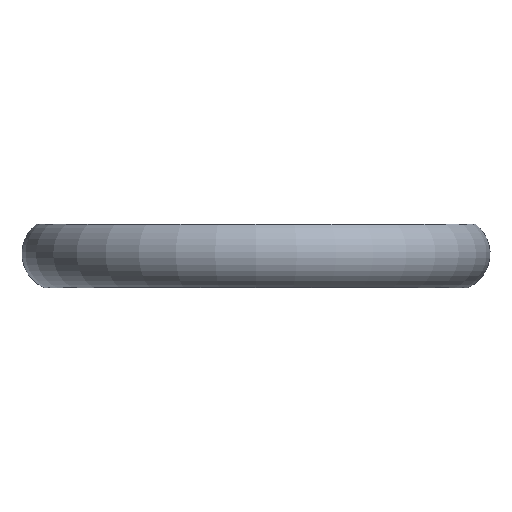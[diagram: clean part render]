
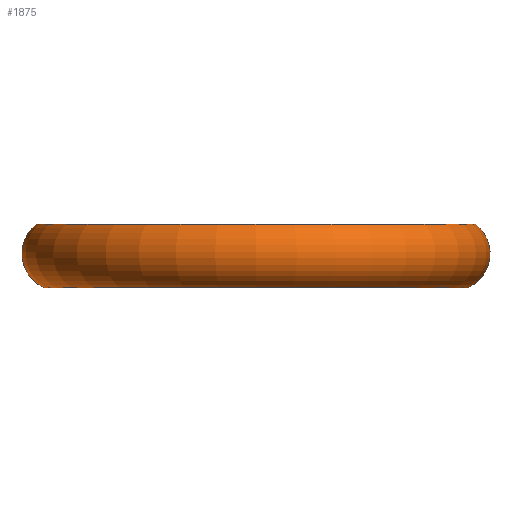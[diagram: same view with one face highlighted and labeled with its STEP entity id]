
A CAD part, front view. The second image highlights one B-rep face of the part: STEP entity #1875.
In plain terms, the highlighted toroidal (fillet/blend) face has major radius 21.547 mm and minor radius 4.072 mm.
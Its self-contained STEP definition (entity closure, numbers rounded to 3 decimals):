
#16=TOROIDAL_SURFACE('',#2013,21.547,4.072);
#40=CIRCLE('',#2011,24.);
#41=CIRCLE('',#2012,24.);
#42=CIRCLE('',#2014,23.133);
#43=CIRCLE('',#2015,23.133);
#44=CIRCLE('',#2016,4.072);
#226=FACE_OUTER_BOUND('',#367,.T.);
#367=EDGE_LOOP('',(#1631,#1632,#1633,#1634,#1635,#1636));
#938=VERTEX_POINT('',#3194);
#939=VERTEX_POINT('',#3195);
#940=VERTEX_POINT('',#3199);
#941=VERTEX_POINT('',#3200);
#1177=EDGE_CURVE('',#938,#939,#40,.T.);
#1178=EDGE_CURVE('',#939,#938,#41,.T.);
#1179=EDGE_CURVE('',#940,#941,#42,.T.);
#1180=EDGE_CURVE('',#941,#940,#43,.T.);
#1181=EDGE_CURVE('',#941,#939,#44,.T.);
#1631=ORIENTED_EDGE('',*,*,#1179,.F.);
#1632=ORIENTED_EDGE('',*,*,#1180,.F.);
#1633=ORIENTED_EDGE('',*,*,#1181,.T.);
#1634=ORIENTED_EDGE('',*,*,#1178,.T.);
#1635=ORIENTED_EDGE('',*,*,#1177,.T.);
#1636=ORIENTED_EDGE('',*,*,#1181,.F.);
#1875=ADVANCED_FACE('',(#226),#16,.T.);
#2011=AXIS2_PLACEMENT_3D('',#3196,#2451,#2452);
#2012=AXIS2_PLACEMENT_3D('',#3197,#2453,#2454);
#2013=AXIS2_PLACEMENT_3D('',#3198,#2455,#2456);
#2014=AXIS2_PLACEMENT_3D('',#3201,#2457,#2458);
#2015=AXIS2_PLACEMENT_3D('',#3202,#2459,#2460);
#2016=AXIS2_PLACEMENT_3D('',#3203,#2461,#2462);
#2451=DIRECTION('center_axis',(0.,0.,
-1.));
#2452=DIRECTION('ref_axis',(1.,0.,0.));
#2453=DIRECTION('center_axis',(0.,0.,
-1.));
#2454=DIRECTION('ref_axis',(1.,0.,0.));
#2455=DIRECTION('center_axis',(0.,0.,
-1.));
#2456=DIRECTION('ref_axis',(-1.,0.,0.));
#2457=DIRECTION('center_axis',(0.,0.,
-1.));
#2458=DIRECTION('ref_axis',(1.,0.,0.));
#2459=DIRECTION('center_axis',(0.,0.,
-1.));
#2460=DIRECTION('ref_axis',(1.,0.,0.));
#2461=DIRECTION('center_axis',(0.,-1.,0.));
#2462=DIRECTION('ref_axis',(1.,0.,0.));
#3194=CARTESIAN_POINT('',(0.,-24.,7.));
#3195=CARTESIAN_POINT('',(24.,0.,7.));
#3196=CARTESIAN_POINT('Origin',(0.,0.,
7.));
#3197=CARTESIAN_POINT('Origin',(0.,0.,
7.));
#3198=CARTESIAN_POINT('Origin',(0.,0.,
3.75));
#3199=CARTESIAN_POINT('',(0.,-23.133,0.));
#3200=CARTESIAN_POINT('',(23.133,0.,0.));
#3201=CARTESIAN_POINT('Origin',(0.,0.,
0.));
#3202=CARTESIAN_POINT('Origin',(0.,0.,
0.));
#3203=CARTESIAN_POINT('Origin',(21.547,0.,
3.75));
